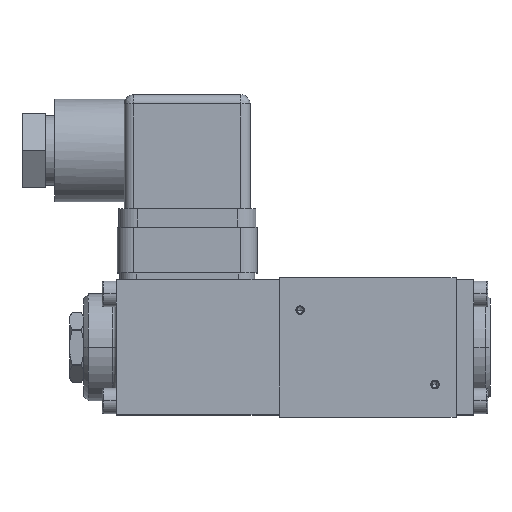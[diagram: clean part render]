
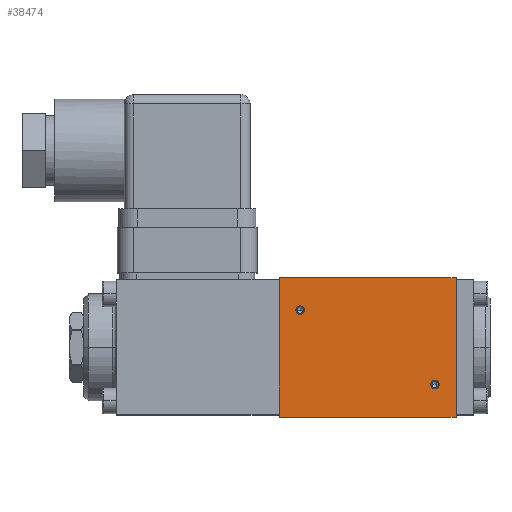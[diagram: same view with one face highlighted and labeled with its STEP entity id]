
A CAD part, top view. The second image highlights one B-rep face of the part: STEP entity #38474.
In plain terms, the highlighted planar face has unit normal (0, 0, 1).
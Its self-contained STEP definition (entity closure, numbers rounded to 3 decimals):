
#790 = FACE_OUTER_BOUND ( 'NONE', #46302, .T. ) ;
#2138 = EDGE_CURVE ( 'NONE', #33106, #34968, #22824, .T. ) ;
#3874 = VERTEX_POINT ( 'NONE', #44966 ) ;
#4556 = VERTEX_POINT ( 'NONE', #58044 ) ;
#5608 = PLANE ( 'NONE',  #52692 ) ;
#5805 = CARTESIAN_POINT ( 'NONE',  ( 0., 0., 0. ) ) ;
#6042 = EDGE_CURVE ( 'NONE', #50981, #11594, #26475, .T. ) ;
#6372 = ORIENTED_EDGE ( 'NONE', *, *, #46977, .F. ) ;
#6976 = ORIENTED_EDGE ( 'NONE', *, *, #8516, .F. ) ;
#7628 = DIRECTION ( 'NONE',  ( 1., 0., 0. ) ) ;
#7757 = ORIENTED_EDGE ( 'NONE', *, *, #6042, .F. ) ;
#8516 = EDGE_CURVE ( 'NONE', #11594, #50981, #51447, .T. ) ;
#8872 = DIRECTION ( 'NONE',  ( -1., 0., 0. ) ) ;
#9772 = CARTESIAN_POINT ( 'NONE',  ( 38.424, 30., 0. ) ) ;
#10442 = DIRECTION ( 'NONE',  ( 1., 0., 0. ) ) ;
#11594 = VERTEX_POINT ( 'NONE', #26175 ) ;
#12830 = CARTESIAN_POINT ( 'NONE',  ( 0., 30., 0. ) ) ;
#12913 = DIRECTION ( 'NONE',  ( 0., 0., 1. ) ) ;
#13804 = DIRECTION ( 'NONE',  ( 1., 0., 0. ) ) ;
#13859 = DIRECTION ( 'NONE',  ( 0., 0., 1. ) ) ;
#13871 = CARTESIAN_POINT ( 'NONE',  ( 33.5, 7., 0. ) ) ;
#20128 = AXIS2_PLACEMENT_3D ( 'NONE', #29348, #49025, #7628 ) ;
#20183 = VECTOR ( 'NONE', #27599, 1000. ) ;
#20879 = ORIENTED_EDGE ( 'NONE', *, *, #36604, .F. ) ;
#21837 = AXIS2_PLACEMENT_3D ( 'NONE', #13871, #13859, #13804 ) ;
#22824 = LINE ( 'NONE', #54867, #33744 ) ;
#23074 = DIRECTION ( 'NONE',  ( 1., 0., 0. ) ) ;
#23081 = DIRECTION ( 'NONE',  ( 0., 0., 1. ) ) ;
#23119 = CARTESIAN_POINT ( 'NONE',  ( 5.4, 23., 0. ) ) ;
#23234 = CARTESIAN_POINT ( 'NONE',  ( 4.5, 23., 0. ) ) ;
#25556 = FACE_BOUND ( 'NONE', #44292, .T. ) ;
#26175 = CARTESIAN_POINT ( 'NONE',  ( 3.6, 23., 0. ) ) ;
#26475 = CIRCLE ( 'NONE', #20128, 0.9 ) ;
#27314 = EDGE_CURVE ( 'NONE', #33106, #44727, #45059, .T. ) ;
#27599 = DIRECTION ( 'NONE',  ( -1., 0., 0. ) ) ;
#27764 = EDGE_CURVE ( 'NONE', #34968, #34947, #57807, .T. ) ;
#27798 = CARTESIAN_POINT ( 'NONE',  ( 38.424, 0., 0. ) ) ;
#27886 = AXIS2_PLACEMENT_3D ( 'NONE', #23234, #23081, #23074 ) ;
#28654 = CARTESIAN_POINT ( 'NONE',  ( 38., 0., 0. ) ) ;
#29348 = CARTESIAN_POINT ( 'NONE',  ( 4.5, 23., 0. ) ) ;
#29441 = ORIENTED_EDGE ( 'NONE', *, *, #27314, .F. ) ;
#30108 = VECTOR ( 'NONE', #53325, 1000. ) ;
#31553 = LINE ( 'NONE', #39885, #30108 ) ;
#31915 = CARTESIAN_POINT ( 'NONE',  ( 0., 0., 0. ) ) ;
#33106 = VERTEX_POINT ( 'NONE', #28654 ) ;
#33744 = VECTOR ( 'NONE', #54751, 1000. ) ;
#34773 = VECTOR ( 'NONE', #8872, 1000. ) ;
#34947 = VERTEX_POINT ( 'NONE', #12830 ) ;
#34968 = VERTEX_POINT ( 'NONE', #59321 ) ;
#35026 = EDGE_LOOP ( 'NONE', ( #6372, #20879 ) ) ;
#36604 = EDGE_CURVE ( 'NONE', #3874, #4556, #54117, .T. ) ;
#37962 = FACE_BOUND ( 'NONE', #35026, .T. ) ;
#38365 = DIRECTION ( 'NONE',  ( 0., 0., 1. ) ) ;
#38474 = ADVANCED_FACE ( 'NONE', ( #790, #25556, #37962 ), #5608, .T. ) ;
#39885 = CARTESIAN_POINT ( 'NONE',  ( 0., -0.424, 0. ) ) ;
#40893 = CARTESIAN_POINT ( 'NONE',  ( 33.5, 7., 0. ) ) ;
#41120 = EDGE_CURVE ( 'NONE', #44727, #34947, #31553, .T. ) ;
#41122 = ORIENTED_EDGE ( 'NONE', *, *, #27764, .T. ) ;
#41742 = AXIS2_PLACEMENT_3D ( 'NONE', #40893, #12913, #45573 ) ;
#44292 = EDGE_LOOP ( 'NONE', ( #7757, #6976 ) ) ;
#44713 = CIRCLE ( 'NONE', #41742, 0.9 ) ;
#44727 = VERTEX_POINT ( 'NONE', #31915 ) ;
#44966 = CARTESIAN_POINT ( 'NONE',  ( 32.6, 7., 0. ) ) ;
#45059 = LINE ( 'NONE', #27798, #20183 ) ;
#45573 = DIRECTION ( 'NONE',  ( 1., 0., 0. ) ) ;
#46302 = EDGE_LOOP ( 'NONE', ( #29441, #51170, #41122, #49199 ) ) ;
#46977 = EDGE_CURVE ( 'NONE', #4556, #3874, #44713, .T. ) ;
#49025 = DIRECTION ( 'NONE',  ( 0., 0., 1. ) ) ;
#49199 = ORIENTED_EDGE ( 'NONE', *, *, #41120, .F. ) ;
#50981 = VERTEX_POINT ( 'NONE', #23119 ) ;
#51170 = ORIENTED_EDGE ( 'NONE', *, *, #2138, .T. ) ;
#51447 = CIRCLE ( 'NONE', #27886, 0.9 ) ;
#52692 = AXIS2_PLACEMENT_3D ( 'NONE', #5805, #38365, #10442 ) ;
#53325 = DIRECTION ( 'NONE',  ( 0., 1., 0. ) ) ;
#54117 = CIRCLE ( 'NONE', #21837, 0.9 ) ;
#54751 = DIRECTION ( 'NONE',  ( 0., 1., 0. ) ) ;
#54867 = CARTESIAN_POINT ( 'NONE',  ( 38., -0.424, 0. ) ) ;
#57807 = LINE ( 'NONE', #9772, #34773 ) ;
#58044 = CARTESIAN_POINT ( 'NONE',  ( 34.4, 7., 0. ) ) ;
#59321 = CARTESIAN_POINT ( 'NONE',  ( 38., 30., 0. ) ) ;
